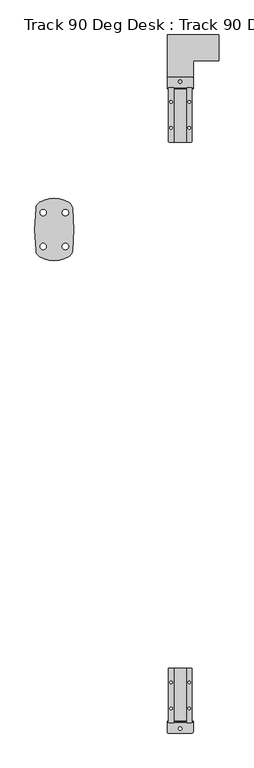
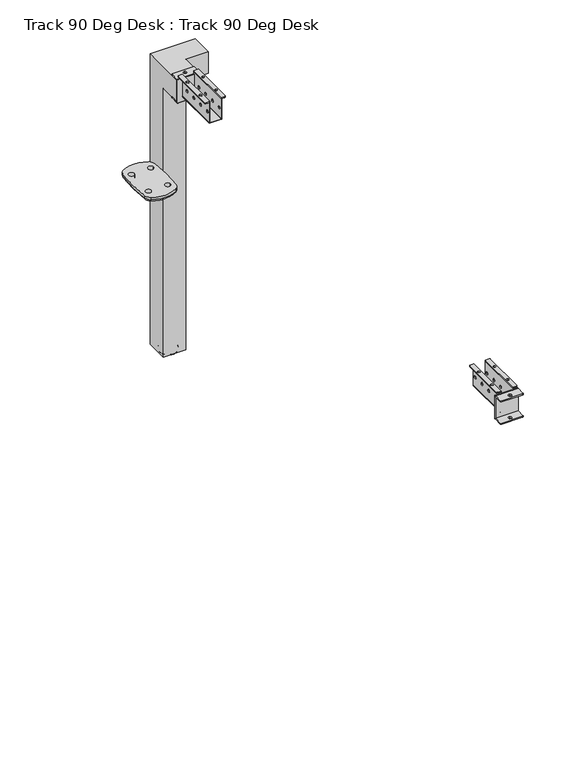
"""IFC4 building model written with IfcOpenShell, lengths in millimetres: furniture geometry, Track 90 Deg Desk : Track 90 Deg Desk."""

from ifc_helpers import new_model, si_unit, point, frame, frame_2d, origin, place, context, project, spatial, polyline, circle_curve, ellipse_curve, trimmed, segment, composite_curve, outline, extrude, faceted_brep, source, transform, mapped, element, save
from ifc_brep_helpers import plane_surface, cylinder_surface, revolved_surface, advanced_brep


def track_90_deg_desk_track_90_deg_desk_626baa0c(model_context):
    return source(origin(), model_context, "Body", "SolidModel", [
        extrude(outline(composite_curve([segment(polyline([(327.4375236, -1648.5331707), (327.4375236, -1546.4687924)]), True, "CONTINUOUS"), segment(trimmed(circle_curve(frame_2d((328.9063713, -1546.4687924)), 1.4688476), [point((327.4375236, -1546.4687924))], [point((328.9063713, -1544.9999448))], False, "CARTESIAN"), True, "CONTINUOUS"), segment(polyline([(328.9063713, -1544.9999448), (337.4374946, -1544.9999448), (337.4374946, -1649.9999492), (328.9043021, -1649.9999492)]), True, "CONTINUOUS"), segment(trimmed(circle_curve(frame_2d((328.9043021, -1648.5331707)), 1.4667785), [point((328.9043021, -1649.9999492))], [point((327.4375236, -1648.5331707))], False, "CARTESIAN"), True, "CONTINUOUS")], self_intersect=False), holes=[composite_curve([segment(trimmed(circle_curve(frame_2d((332.4375091, -1622.4999472)), 2.5000018), [point((332.4375091, -1624.999949))], [point((332.4375091, -1619.9999453))], True, "CARTESIAN"), True, "CONTINUOUS"), segment(trimmed(circle_curve(frame_2d((332.4375091, -1622.4999472)), 2.5000018), [point((332.4375091, -1619.9999453))], [point((332.4375091, -1624.999949))], True, "CARTESIAN"), True, "CONTINUOUS")], self_intersect=False), composite_curve([segment(trimmed(circle_curve(frame_2d((332.4375091, -1572.4999468)), 2.5000018), [point((332.4375091, -1574.9999486))], [point((332.4375091, -1569.9999449))], True, "CARTESIAN"), True, "CONTINUOUS"), segment(trimmed(circle_curve(frame_2d((332.4375091, -1572.4999468)), 2.5000018), [point((332.4375091, -1569.9999449))], [point((332.4375091, -1574.9999486))], True, "CARTESIAN"), True, "CONTINUOUS")], self_intersect=False)]), frame((0.0, 0.0, 692.5000071), z_axis=(0.0, 0.0, 1.0), x_axis=(1.0, 0.0, 0.0)), (0.0, 0.0, 1.0), 2.4999928),
        extrude(outline(composite_curve([segment(trimmed(circle_curve(frame_2d((371.0956797, -1648.5331707)), 1.4667785), [point((372.5624582, -1648.5331707))], [point((371.0956797, -1649.9999492))], False, "CARTESIAN"), True, "CONTINUOUS"), segment(polyline([(371.0956797, -1649.9999492), (362.5624872, -1649.9999492), (362.5624872, -1544.9999448), (371.0936106, -1544.9999448)]), True, "CONTINUOUS"), segment(trimmed(circle_curve(frame_2d((371.0936106, -1546.4687924)), 1.4688476), [point((371.0936106, -1544.9999448))], [point((372.5624582, -1546.4687924))], False, "CARTESIAN"), True, "CONTINUOUS"), segment(polyline([(372.5624582, -1546.4687924), (372.5624582, -1648.5331707)]), True, "CONTINUOUS")], self_intersect=False), holes=[composite_curve([segment(trimmed(circle_curve(frame_2d((367.5624727, -1622.4999472)), 2.5000018), [point((367.5624727, -1624.999949))], [point((367.5624727, -1619.9999453))], True, "CARTESIAN"), True, "CONTINUOUS"), segment(trimmed(circle_curve(frame_2d((367.5624727, -1622.4999472)), 2.5000018), [point((367.5624727, -1619.9999453))], [point((367.5624727, -1624.999949))], True, "CARTESIAN"), True, "CONTINUOUS")], self_intersect=False), composite_curve([segment(trimmed(circle_curve(frame_2d((367.5624727, -1572.4999468)), 2.5000018), [point((367.5624727, -1574.9999486))], [point((367.5624727, -1569.9999449))], True, "CARTESIAN"), True, "CONTINUOUS"), segment(trimmed(circle_curve(frame_2d((367.5624727, -1572.4999468)), 2.5000018), [point((367.5624727, -1569.9999449))], [point((367.5624727, -1574.9999486))], True, "CARTESIAN"), True, "CONTINUOUS")], self_intersect=False)]), frame((0.0, 0.0, 692.5000071), z_axis=(0.0, 0.0, 1.0), x_axis=(1.0, 0.0, 0.0)), (0.0, 0.0, 1.0), 2.4999928),
        extrude(outline(composite_curve([segment(polyline([(644.9999994, 337.4374946), (645.9999994, 337.4374946), (645.9999994, 336.174127), (644.2418639, 336.174127)]), True, "CONTINUOUS"), segment(trimmed(circle_curve(frame_2d((644.2418639, 336.674127)), 0.5), [point((644.2418639, 336.174127))], [point((643.7418639, 336.674127))], False, "CARTESIAN"), True, "CONTINUOUS"), segment(polyline([(643.7418639, 336.674127), (643.7418639, 363.32506)]), True, "CONTINUOUS"), segment(trimmed(circle_curve(frame_2d((644.2426588, 363.32506)), 0.5007949), [point((643.7418639, 363.32506))], [point((644.2426588, 363.8258548))], False, "CARTESIAN"), True, "CONTINUOUS"), segment(polyline([(644.2426588, 363.8258548), (645.9999994, 363.8258548), (645.9999994, 362.5624872), (644.9999994, 362.5624872), (644.9999994, 337.4374946)]), True, "CONTINUOUS")], self_intersect=False)), frame((0.0, -1647.4999473, 0.0), z_axis=(0.0, 1.0, 0.0), x_axis=(0.0, 0.0, 1.0)), (0.0, 0.0, 1.0), 102.5000026),
        extrude(outline(polyline([(-1544.9999448, 645.9999994), (-1647.4999473, 645.9999994), (-1647.4999473, 687.999991), (-1649.9999492, 687.999991), (-1649.9999492, 692.5000071), (-1544.9999448, 692.5000071), (-1544.9999448, 645.9999994)]), holes=[composite_curve([segment(trimmed(circle_curve(frame_2d((-1629.9999527, 668.1207902)), 2.9999986), [point((-1632.9999512, 668.1207902))], [point((-1626.9999541, 668.1207902))], True, "CARTESIAN"), True, "CONTINUOUS"), segment(trimmed(circle_curve(frame_2d((-1629.9999527, 668.1207902)), 2.9999986), [point((-1626.9999541, 668.1207902))], [point((-1632.9999512, 668.1207902))], True, "CARTESIAN"), True, "CONTINUOUS")], self_intersect=False), composite_curve([segment(trimmed(circle_curve(frame_2d((-1604.0058651, 668.1207902)), 2.9999986), [point((-1607.0058637, 668.1207902))], [point((-1601.0058666, 668.1207902))], True, "CARTESIAN"), True, "CONTINUOUS"), segment(trimmed(circle_curve(frame_2d((-1604.0058651, 668.1207902)), 2.9999986), [point((-1601.0058666, 668.1207902))], [point((-1607.0058637, 668.1207902))], True, "CARTESIAN"), True, "CONTINUOUS")], self_intersect=False), composite_curve([segment(trimmed(circle_curve(frame_2d((-1578.0117776, 668.1207902)), 2.9999986), [point((-1575.0117791, 668.1207902))], [point((-1581.0117762, 668.1207902))], True, "CARTESIAN"), True, "CONTINUOUS"), segment(trimmed(circle_curve(frame_2d((-1578.0117776, 668.1207902)), 2.9999986), [point((-1581.0117762, 668.1207902))], [point((-1575.0117791, 668.1207902))], True, "CARTESIAN"), True, "CONTINUOUS")], self_intersect=False), composite_curve([segment(trimmed(circle_curve(frame_2d((-1552.0176901, 668.1207902)), 2.9999986), [point((-1549.0176915, 668.1207902))], [point((-1555.0176887, 668.1207902))], True, "CARTESIAN"), True, "CONTINUOUS"), segment(trimmed(circle_curve(frame_2d((-1552.0176901, 668.1207902)), 2.9999986), [point((-1555.0176887, 668.1207902))], [point((-1549.0176915, 668.1207902))], True, "CARTESIAN"), True, "CONTINUOUS")], self_intersect=False)]), frame((336.174127, 0.0, 0.0), z_axis=(1.0, 0.0, 0.0), x_axis=(0.0, 1.0, 0.0)), (0.0, 0.0, 1.0), 1.2633677),
        extrude(outline(composite_curve([segment(polyline([(324.9999544, -1667.9824397), (324.9999544, -1649.9999492), (374.9999548, -1649.9999492), (374.9999548, -1667.9713639)]), True, "CONTINUOUS"), segment(trimmed(circle_curve(frame_2d((372.9713684, -1667.9713639)), 2.0285864), [point((374.9999548, -1667.9713639))], [point((372.9713684, -1669.9999502))], False, "CARTESIAN"), True, "CONTINUOUS"), segment(polyline([(372.9713684, -1669.9999502), (327.0174649, -1669.9999502)]), True, "CONTINUOUS"), segment(trimmed(circle_curve(frame_2d((327.0174649, -1667.9824397)), 2.0175105), [point((327.0174649, -1669.9999502))], [point((324.9999544, -1667.9824397))], False, "CARTESIAN"), True, "CONTINUOUS")], self_intersect=False), holes=[composite_curve([segment(trimmed(circle_curve(frame_2d((349.9999546, -1661.4999513)), 3.2500196), [point((349.9999546, -1664.7499709))], [point((349.9999546, -1658.2499316))], True, "CARTESIAN"), True, "CONTINUOUS"), segment(trimmed(circle_curve(frame_2d((349.9999546, -1661.4999513)), 3.2500196), [point((349.9999546, -1658.2499316))], [point((349.9999546, -1664.7499709))], True, "CARTESIAN"), True, "CONTINUOUS")], self_intersect=False)]), frame((0.0, 0.0, 633.0000051), z_axis=(0.0, 0.0, 1.0), x_axis=(1.0, 0.0, 0.0)), (0.0, 0.0, 1.0), 2.4999928),
        extrude(outline(composite_curve([segment(polyline([(324.9999544, -1667.9824397), (324.9999544, -1649.9999492), (374.9999548, -1649.9999492), (374.9999548, -1667.9713639)]), True, "CONTINUOUS"), segment(trimmed(circle_curve(frame_2d((372.9713684, -1667.9713639)), 2.0285864), [point((374.9999548, -1667.9713639))], [point((372.9713684, -1669.9999502))], False, "CARTESIAN"), True, "CONTINUOUS"), segment(polyline([(372.9713684, -1669.9999502), (327.0174649, -1669.9999502)]), True, "CONTINUOUS"), segment(trimmed(circle_curve(frame_2d((327.0174649, -1667.9824397)), 2.0175105), [point((327.0174649, -1669.9999502))], [point((324.9999544, -1667.9824397))], False, "CARTESIAN"), True, "CONTINUOUS")], self_intersect=False), holes=[composite_curve([segment(trimmed(circle_curve(frame_2d((349.9999546, -1661.4999513)), 3.2500196), [point((349.9999546, -1664.7499709))], [point((349.9999546, -1658.2499316))], True, "CARTESIAN"), True, "CONTINUOUS"), segment(trimmed(circle_curve(frame_2d((349.9999546, -1661.4999513)), 3.2500196), [point((349.9999546, -1658.2499316))], [point((349.9999546, -1664.7499709))], True, "CARTESIAN"), True, "CONTINUOUS")], self_intersect=False)]), frame((0.0, 0.0, 685.4999983), z_axis=(0.0, 0.0, 1.0), x_axis=(1.0, 0.0, 0.0)), (0.0, 0.0, 1.0), 2.4999928),
        extrude(outline(composite_curve([segment(polyline([(-1649.9999492, 687.999991), (-1647.9999473, 687.999991)]), True, "CONTINUOUS"), segment(trimmed(circle_curve(frame_2d((-1647.9999473, 687.499991)), 0.5), [point((-1647.9999473, 687.999991))], [point((-1647.4999473, 687.499991))], False, "CARTESIAN"), True, "CONTINUOUS"), segment(polyline([(-1647.4999473, 687.499991), (-1647.4999473, 633.5414345)]), True, "CONTINUOUS"), segment(trimmed(circle_curve(frame_2d((-1648.0413767, 633.5414345)), 0.5414293), [point((-1647.4999473, 633.5414345))], [point((-1648.0413767, 633.0000051))], False, "CARTESIAN"), True, "CONTINUOUS"), segment(polyline([(-1648.0413767, 633.0000051), (-1649.9999492, 633.0000051), (-1649.9999492, 687.999991)]), True, "CONTINUOUS")], self_intersect=False)), frame((324.9999544, 0.0, 0.0), z_axis=(1.0, 0.0, 0.0), x_axis=(0.0, 1.0, 0.0)), (0.0, 0.0, 1.0), 50.0000004),
        extrude(outline(polyline([(-1544.9999448, 645.9999994), (-1647.4999473, 645.9999994), (-1647.4999473, 687.999991), (-1649.9999492, 687.999991), (-1649.9999492, 692.5000071), (-1544.9999448, 692.5000071), (-1544.9999448, 645.9999994)]), holes=[composite_curve([segment(trimmed(circle_curve(frame_2d((-1629.9999527, 668.1207902)), 2.9999986), [point((-1632.9999512, 668.1207902))], [point((-1626.9999541, 668.1207902))], True, "CARTESIAN"), True, "CONTINUOUS"), segment(trimmed(circle_curve(frame_2d((-1629.9999527, 668.1207902)), 2.9999986), [point((-1626.9999541, 668.1207902))], [point((-1632.9999512, 668.1207902))], True, "CARTESIAN"), True, "CONTINUOUS")], self_intersect=False), composite_curve([segment(trimmed(circle_curve(frame_2d((-1604.0058651, 668.1207902)), 2.9999986), [point((-1607.0058637, 668.1207902))], [point((-1601.0058666, 668.1207902))], True, "CARTESIAN"), True, "CONTINUOUS"), segment(trimmed(circle_curve(frame_2d((-1604.0058651, 668.1207902)), 2.9999986), [point((-1601.0058666, 668.1207902))], [point((-1607.0058637, 668.1207902))], True, "CARTESIAN"), True, "CONTINUOUS")], self_intersect=False), composite_curve([segment(trimmed(circle_curve(frame_2d((-1578.0117776, 668.1207902)), 2.9999986), [point((-1575.0117791, 668.1207902))], [point((-1581.0117762, 668.1207902))], True, "CARTESIAN"), True, "CONTINUOUS"), segment(trimmed(circle_curve(frame_2d((-1578.0117776, 668.1207902)), 2.9999986), [point((-1581.0117762, 668.1207902))], [point((-1575.0117791, 668.1207902))], True, "CARTESIAN"), True, "CONTINUOUS")], self_intersect=False), composite_curve([segment(trimmed(circle_curve(frame_2d((-1552.0176901, 668.1207902)), 2.9999986), [point((-1549.0176915, 668.1207902))], [point((-1555.0176887, 668.1207902))], True, "CARTESIAN"), True, "CONTINUOUS"), segment(trimmed(circle_curve(frame_2d((-1552.0176901, 668.1207902)), 2.9999986), [point((-1555.0176887, 668.1207902))], [point((-1549.0176915, 668.1207902))], True, "CARTESIAN"), True, "CONTINUOUS")], self_intersect=False)]), frame((362.5624872, 0.0, 0.0), z_axis=(1.0, 0.0, 0.0), x_axis=(0.0, 1.0, 0.0)), (0.0, 0.0, 1.0), 1.2633677),
        extrude(outline(composite_curve([segment(trimmed(circle_curve(frame_2d((328.9043021, -427.9667757)), 1.4667785), [point((327.4375236, -427.9667757))], [point((328.9043021, -426.4999972))], False, "CARTESIAN"), True, "CONTINUOUS"), segment(polyline([(328.9043021, -426.4999972), (337.4374946, -426.4999972), (337.4374946, -531.5000017), (328.9063713, -531.5000017)]), True, "CONTINUOUS"), segment(trimmed(circle_curve(frame_2d((328.9063713, -530.031154)), 1.4688476), [point((328.9063713, -531.5000017))], [point((327.4375236, -530.031154))], False, "CARTESIAN"), True, "CONTINUOUS"), segment(polyline([(327.4375236, -530.031154), (327.4375236, -427.9667757)]), True, "CONTINUOUS")], self_intersect=False), holes=[composite_curve([segment(trimmed(circle_curve(frame_2d((332.4375091, -453.9999993)), 2.5000018), [point((332.4375091, -451.4999974))], [point((332.4375091, -456.5000011))], True, "CARTESIAN"), True, "CONTINUOUS"), segment(trimmed(circle_curve(frame_2d((332.4375091, -453.9999993)), 2.5000018), [point((332.4375091, -456.5000011))], [point((332.4375091, -451.4999974))], True, "CARTESIAN"), True, "CONTINUOUS")], self_intersect=False), composite_curve([segment(trimmed(circle_curve(frame_2d((332.4375091, -503.9999996)), 2.5000018), [point((332.4375091, -501.4999978))], [point((332.4375091, -506.5000015))], True, "CARTESIAN"), True, "CONTINUOUS"), segment(trimmed(circle_curve(frame_2d((332.4375091, -503.9999996)), 2.5000018), [point((332.4375091, -506.5000015))], [point((332.4375091, -501.4999978))], True, "CARTESIAN"), True, "CONTINUOUS")], self_intersect=False)]), frame((0.0, 0.0, 692.5000271), z_axis=(0.0, 0.0, 1.0), x_axis=(1.0, 0.0, 0.0)), (0.0, 0.0, 1.0), 2.4999928),
        extrude(outline(composite_curve([segment(polyline([(372.5624582, -427.9667757), (372.5624582, -530.031154)]), True, "CONTINUOUS"), segment(trimmed(circle_curve(frame_2d((371.0936106, -530.031154)), 1.4688476), [point((372.5624582, -530.031154))], [point((371.0936106, -531.5000017))], False, "CARTESIAN"), True, "CONTINUOUS"), segment(polyline([(371.0936106, -531.5000017), (362.5624872, -531.5000017), (362.5624872, -426.4999972), (371.0956797, -426.4999972)]), True, "CONTINUOUS"), segment(trimmed(circle_curve(frame_2d((371.0956797, -427.9667757)), 1.4667785), [point((371.0956797, -426.4999972))], [point((372.5624582, -427.9667757))], False, "CARTESIAN"), True, "CONTINUOUS")], self_intersect=False), holes=[composite_curve([segment(trimmed(circle_curve(frame_2d((367.5624727, -453.9999993)), 2.5000018), [point((367.5624727, -451.4999974))], [point((367.5624727, -456.5000011))], True, "CARTESIAN"), True, "CONTINUOUS"), segment(trimmed(circle_curve(frame_2d((367.5624727, -453.9999993)), 2.5000018), [point((367.5624727, -456.5000011))], [point((367.5624727, -451.4999974))], True, "CARTESIAN"), True, "CONTINUOUS")], self_intersect=False), composite_curve([segment(trimmed(circle_curve(frame_2d((367.5624727, -503.9999996)), 2.5000018), [point((367.5624727, -501.4999978))], [point((367.5624727, -506.5000015))], True, "CARTESIAN"), True, "CONTINUOUS"), segment(trimmed(circle_curve(frame_2d((367.5624727, -503.9999996)), 2.5000018), [point((367.5624727, -506.5000015))], [point((367.5624727, -501.4999978))], True, "CARTESIAN"), True, "CONTINUOUS")], self_intersect=False)]), frame((0.0, 0.0, 692.5000271), z_axis=(0.0, 0.0, 1.0), x_axis=(1.0, 0.0, 0.0)), (0.0, 0.0, 1.0), 2.4999928),
        extrude(outline(composite_curve([segment(polyline([(645.0000195, 337.4374946), (646.0000195, 337.4374946), (646.0000195, 336.174127), (644.241884, 336.174127)]), True, "CONTINUOUS"), segment(trimmed(circle_curve(frame_2d((644.241884, 336.674127)), 0.5), [point((644.241884, 336.174127))], [point((643.741884, 336.674127))], False, "CARTESIAN"), True, "CONTINUOUS"), segment(polyline([(643.741884, 336.674127), (643.741884, 363.32506)]), True, "CONTINUOUS"), segment(trimmed(circle_curve(frame_2d((644.2426788, 363.32506)), 0.5007949), [point((643.741884, 363.32506))], [point((644.2426788, 363.8258548))], False, "CARTESIAN"), True, "CONTINUOUS"), segment(polyline([(644.2426788, 363.8258548), (646.0000195, 363.8258548), (646.0000195, 362.5624872), (645.0000195, 362.5624872), (645.0000195, 337.4374946)]), True, "CONTINUOUS")], self_intersect=False)), frame((0.0, -531.5000017, 0.0), z_axis=(0.0, 1.0, 0.0), x_axis=(0.0, 0.0, 1.0)), (0.0, 0.0, 1.0), 102.5000026),
        extrude(outline(polyline([(-531.5000017, 646.0000195), (-531.5000017, 692.5000271), (-426.4999972, 692.5000271), (-426.4999972, 688.0000111), (-428.9999991, 688.0000111), (-428.9999991, 646.0000195), (-531.5000017, 646.0000195)]), holes=[composite_curve([segment(trimmed(circle_curve(frame_2d((-446.4999938, 668.1208102)), 2.9999986), [point((-443.4999952, 668.1208102))], [point((-449.4999923, 668.1208102))], True, "CARTESIAN"), True, "CONTINUOUS"), segment(trimmed(circle_curve(frame_2d((-446.4999938, 668.1208102)), 2.9999986), [point((-449.4999923, 668.1208102))], [point((-443.4999952, 668.1208102))], True, "CARTESIAN"), True, "CONTINUOUS")], self_intersect=False), composite_curve([segment(trimmed(circle_curve(frame_2d((-472.4940813, 668.1208102)), 2.9999986), [point((-469.4940827, 668.1208102))], [point((-475.4940798, 668.1208102))], True, "CARTESIAN"), True, "CONTINUOUS"), segment(trimmed(circle_curve(frame_2d((-472.4940813, 668.1208102)), 2.9999986), [point((-475.4940798, 668.1208102))], [point((-469.4940827, 668.1208102))], True, "CARTESIAN"), True, "CONTINUOUS")], self_intersect=False), composite_curve([segment(trimmed(circle_curve(frame_2d((-498.4881688, 668.1208102)), 2.9999986), [point((-501.4881674, 668.1208102))], [point((-495.4881702, 668.1208102))], True, "CARTESIAN"), True, "CONTINUOUS"), segment(trimmed(circle_curve(frame_2d((-498.4881688, 668.1208102)), 2.9999986), [point((-495.4881702, 668.1208102))], [point((-501.4881674, 668.1208102))], True, "CARTESIAN"), True, "CONTINUOUS")], self_intersect=False), composite_curve([segment(trimmed(circle_curve(frame_2d((-524.4822563, 668.1208102)), 2.9999986), [point((-527.4822549, 668.1208102))], [point((-521.4822577, 668.1208102))], True, "CARTESIAN"), True, "CONTINUOUS"), segment(trimmed(circle_curve(frame_2d((-524.4822563, 668.1208102)), 2.9999986), [point((-521.4822577, 668.1208102))], [point((-527.4822549, 668.1208102))], True, "CARTESIAN"), True, "CONTINUOUS")], self_intersect=False)]), frame((336.174127, 0.0, 0.0), z_axis=(1.0, 0.0, 0.0), x_axis=(0.0, 1.0, 0.0)), (0.0, 0.0, 1.0), 1.2633677),
        extrude(outline(composite_curve([segment(trimmed(circle_curve(frame_2d((327.0174649, -408.5175067)), 2.0175105), [point((324.9999544, -408.5175067))], [point((327.0174649, -406.4999962))], False, "CARTESIAN"), True, "CONTINUOUS"), segment(polyline([(327.0174649, -406.4999962), (372.9713684, -406.4999962)]), True, "CONTINUOUS"), segment(trimmed(circle_curve(frame_2d((372.9713684, -408.5285826)), 2.0285864), [point((372.9713684, -406.4999962))], [point((374.9999548, -408.5285826))], False, "CARTESIAN"), True, "CONTINUOUS"), segment(polyline([(374.9999548, -408.5285826), (374.9999548, -426.4999972), (324.9999544, -426.4999972), (324.9999544, -408.5175067)]), True, "CONTINUOUS")], self_intersect=False), holes=[composite_curve([segment(trimmed(circle_curve(frame_2d((349.9999546, -414.9999951)), 3.2500196), [point((349.9999546, -411.7499755))], [point((349.9999546, -418.2500148))], True, "CARTESIAN"), True, "CONTINUOUS"), segment(trimmed(circle_curve(frame_2d((349.9999546, -414.9999951)), 3.2500196), [point((349.9999546, -418.2500148))], [point((349.9999546, -411.7499755))], True, "CARTESIAN"), True, "CONTINUOUS")], self_intersect=False)]), frame((0.0, 0.0, 633.0000252), z_axis=(0.0, 0.0, 1.0), x_axis=(1.0, 0.0, 0.0)), (0.0, 0.0, 1.0), 2.4999928),
        extrude(outline(composite_curve([segment(trimmed(circle_curve(frame_2d((327.0174649, -408.5175067)), 2.0175105), [point((324.9999544, -408.5175067))], [point((327.0174649, -406.4999962))], False, "CARTESIAN"), True, "CONTINUOUS"), segment(polyline([(327.0174649, -406.4999962), (372.9713684, -406.4999962)]), True, "CONTINUOUS"), segment(trimmed(circle_curve(frame_2d((372.9713684, -408.5285826)), 2.0285864), [point((372.9713684, -406.4999962))], [point((374.9999548, -408.5285826))], False, "CARTESIAN"), True, "CONTINUOUS"), segment(polyline([(374.9999548, -408.5285826), (374.9999548, -426.4999972), (324.9999544, -426.4999972), (324.9999544, -408.5175067)]), True, "CONTINUOUS")], self_intersect=False), holes=[composite_curve([segment(trimmed(circle_curve(frame_2d((349.9999546, -414.9999951)), 3.2500196), [point((349.9999546, -411.7499755))], [point((349.9999546, -418.2500148))], True, "CARTESIAN"), True, "CONTINUOUS"), segment(trimmed(circle_curve(frame_2d((349.9999546, -414.9999951)), 3.2500196), [point((349.9999546, -418.2500148))], [point((349.9999546, -411.7499755))], True, "CARTESIAN"), True, "CONTINUOUS")], self_intersect=False)]), frame((0.0, 0.0, 685.5000183), z_axis=(0.0, 0.0, 1.0), x_axis=(1.0, 0.0, 0.0)), (0.0, 0.0, 1.0), 2.4999928),
        extrude(outline(composite_curve([segment(polyline([(-426.4999972, 688.0000111), (-426.4999972, 633.0000252), (-428.4585698, 633.0000252)]), True, "CONTINUOUS"), segment(trimmed(circle_curve(frame_2d((-428.4585698, 633.5414545)), 0.5414293), [point((-428.4585698, 633.0000252))], [point((-428.9999991, 633.5414545))], False, "CARTESIAN"), True, "CONTINUOUS"), segment(polyline([(-428.9999991, 633.5414545), (-428.9999991, 687.5000111)]), True, "CONTINUOUS"), segment(trimmed(circle_curve(frame_2d((-428.4999991, 687.5000111)), 0.5), [point((-428.9999991, 687.5000111))], [point((-428.4999991, 688.0000111))], False, "CARTESIAN"), True, "CONTINUOUS"), segment(polyline([(-428.4999991, 688.0000111), (-426.4999972, 688.0000111)]), True, "CONTINUOUS")], self_intersect=False)), frame((324.9999544, 0.0, 0.0), z_axis=(1.0, 0.0, 0.0), x_axis=(0.0, 1.0, 0.0)), (0.0, 0.0, 1.0), 50.0000004),
        extrude(outline(polyline([(-531.5000017, 646.0000195), (-531.5000017, 692.5000271), (-426.4999972, 692.5000271), (-426.4999972, 688.0000111), (-428.9999991, 688.0000111), (-428.9999991, 646.0000195), (-531.5000017, 646.0000195)]), holes=[composite_curve([segment(trimmed(circle_curve(frame_2d((-446.4999938, 668.1208102)), 2.9999986), [point((-443.4999952, 668.1208102))], [point((-449.4999923, 668.1208102))], True, "CARTESIAN"), True, "CONTINUOUS"), segment(trimmed(circle_curve(frame_2d((-446.4999938, 668.1208102)), 2.9999986), [point((-449.4999923, 668.1208102))], [point((-443.4999952, 668.1208102))], True, "CARTESIAN"), True, "CONTINUOUS")], self_intersect=False), composite_curve([segment(trimmed(circle_curve(frame_2d((-472.4940813, 668.1208102)), 2.9999986), [point((-469.4940827, 668.1208102))], [point((-475.4940798, 668.1208102))], True, "CARTESIAN"), True, "CONTINUOUS"), segment(trimmed(circle_curve(frame_2d((-472.4940813, 668.1208102)), 2.9999986), [point((-475.4940798, 668.1208102))], [point((-469.4940827, 668.1208102))], True, "CARTESIAN"), True, "CONTINUOUS")], self_intersect=False), composite_curve([segment(trimmed(circle_curve(frame_2d((-498.4881688, 668.1208102)), 2.9999986), [point((-501.4881674, 668.1208102))], [point((-495.4881702, 668.1208102))], True, "CARTESIAN"), True, "CONTINUOUS"), segment(trimmed(circle_curve(frame_2d((-498.4881688, 668.1208102)), 2.9999986), [point((-495.4881702, 668.1208102))], [point((-501.4881674, 668.1208102))], True, "CARTESIAN"), True, "CONTINUOUS")], self_intersect=False), composite_curve([segment(trimmed(circle_curve(frame_2d((-524.4822563, 668.1208102)), 2.9999986), [point((-527.4822549, 668.1208102))], [point((-521.4822577, 668.1208102))], True, "CARTESIAN"), True, "CONTINUOUS"), segment(trimmed(circle_curve(frame_2d((-524.4822563, 668.1208102)), 2.9999986), [point((-521.4822577, 668.1208102))], [point((-527.4822549, 668.1208102))], True, "CARTESIAN"), True, "CONTINUOUS")], self_intersect=False)]), frame((362.5624872, 0.0, 0.0), z_axis=(1.0, 0.0, 0.0), x_axis=(0.0, 1.0, 0.0)), (0.0, 0.0, 1.0), 1.2633677),
        faceted_brep([(424.9999907, -324.9999998, 635.4999996), (424.9999907, -324.9999998, 685.5), (424.9999907, -375.0000002, 685.5), (424.9999907, -375.0000002, 635.4999996), (424.9999907, -326.9999998, 637.4999502), (424.9999907, -372.9999996, 637.4999502), (424.9999907, -372.9999996, 683.4999767), (424.9999907, -326.9999998, 683.4999767), (374.9999911, -324.9999998, 5.4999998), (374.9999911, -375.0000002, 5.4999998), (324.9999907, -375.0000002, 5.4999998), (324.9999907, -324.9999998, 5.4999998), (373.0000405, -326.9999998, 5.4999998), (327.000014, -326.9999998, 5.4999998), (327.000014, -372.9999996, 5.4999998), (373.0000405, -372.9999996, 5.4999998), (374.9999911, -324.9999998, 635.4999996), (324.9999907, -324.9999998, 685.5), (324.9999998, -424.9999907, 685.5), (375.0000002, -424.9999907, 685.5), (375.0000002, -375.0000002, 685.5), (375.0000002, -375.0000002, 635.4999996), (324.9999907, -375.0000002, 635.4999996), (327.0000004, -375.0000002, 637.4999502), (373.0000002, -375.0000002, 637.4999502), (373.0000002, -375.0000002, 683.4999767), (327.0000004, -375.0000002, 683.4999767), (373.0000405, -326.9999998, 637.4999502), (373.0000405, -372.9999996, 637.4999502), (327.000014, -372.9999996, 683.4999767), (327.000014, -326.9999998, 683.4999767), (324.9999907, -424.9999907, 635.4999996), (375.0000002, -424.9999907, 635.4999996), (373.0000002, -424.9999907, 637.4999502), (327.0000004, -424.9999907, 637.4999502), (327.0000004, -424.9999907, 683.4999767), (373.0000002, -424.9999907, 683.4999767)], [[[0, 1, 2, 3], [4, 5, 6, 7]], [[8, 9, 10, 11], [12, 13, 14, 15]], [[1, 0, 16, 8, 11, 17]], [[2, 1, 17, 18, 19, 20]], [[3, 2, 20, 21]], [[10, 9, 21, 22]], [[23, 24, 25, 26]], [[0, 3, 21, 16]], [[5, 4, 27, 28]], [[6, 5, 28, 15, 14, 29]], [[7, 6, 29, 30]], [[4, 7, 30, 13, 12, 27]], [[11, 10, 22, 31, 18, 17]], [[9, 8, 16, 21]], [[12, 15, 28, 27]], [[14, 13, 30, 29]], [[32, 19, 18, 31], [33, 34, 35, 36]], [[19, 32, 21, 20]], [[32, 31, 22, 21]], [[34, 33, 24, 23]], [[35, 34, 23, 26]], [[36, 35, 26, 25]], [[33, 36, 25, 24]]]),
        advanced_brep(
        [(346.0, -349.9999989, 10.0000005), (354.0, -349.9999989, 10.0000005), (354.0, -349.9999989, 70.0000014), (346.0, -349.9999989, 70.0000014), (339.0359152, -349.9999989, 10.0000005), (360.9640848, -349.9999989, 10.0000005), (339.0359152, -349.9999989, 6.0), (360.9640848, -349.9999989, 6.0), (331.9539941, -349.9999989, 6.0), (368.0460059, -349.9999989, 6.0), (330.0000012, -349.9999989, 4.0460071), (369.9999988, -349.9999989, 4.0460071), (330.0000012, -349.9999989, 2.0), (369.9999988, -349.9999989, 2.0), (332.0000012, -349.9999989, 0.0), (367.9999988, -349.9999989, 0.0), (350.0, -349.9999989, 0.0), (350.0, -349.9999989, 70.0000014)],
        [
            (0, 1, circle_curve(frame((350.0, -349.9999989, 10.0000005), z_axis=(0.0, 0.0, 1.0), x_axis=(1.0, 0.0, 0.0)), 4.0)),
            (1, 2),
            (2, 3, circle_curve(frame((350.0, -349.9999989, 70.0000014), z_axis=(0.0, 0.0, -1.0), x_axis=(1.0, 0.0, 0.0)), 4.0)),
            (3, 0),
            (1, 0, circle_curve(frame((350.0, -349.9999989, 10.0000005), z_axis=(0.0, 0.0, 1.0), x_axis=(1.0, 0.0, 0.0)), 4.0)),
            (3, 2, circle_curve(frame((350.0, -349.9999989, 70.0000014), z_axis=(0.0, 0.0, -1.0), x_axis=(1.0, 0.0, 0.0)), 4.0)),
            (4, 5, circle_curve(frame((350.0, -349.9999989, 10.0000005), z_axis=(0.0, 0.0, 1.0), x_axis=(1.0, 0.0, 0.0)), 10.9640848)),
            (5, 1),
            (0, 4),
            (5, 4, circle_curve(frame((350.0, -349.9999989, 10.0000005), z_axis=(0.0, 0.0, 1.0), x_axis=(1.0, 0.0, 0.0)), 10.9640848)),
            (6, 7, circle_curve(frame((350.0, -349.9999989, 6.0), z_axis=(0.0, 0.0, 1.0), x_axis=(1.0, 0.0, 0.0)), 10.9640848)),
            (7, 5),
            (4, 6),
            (7, 6, circle_curve(frame((350.0, -349.9999989, 6.0), z_axis=(0.0, 0.0, 1.0), x_axis=(1.0, 0.0, 0.0)), 10.9640848)),
            (8, 9, circle_curve(frame((350.0, -349.9999989, 6.0), z_axis=(0.0, 0.0, 1.0), x_axis=(1.0, 0.0, 0.0)), 18.0460059)),
            (9, 7),
            (6, 8),
            (9, 8, circle_curve(frame((350.0, -349.9999989, 6.0), z_axis=(0.0, 0.0, 1.0), x_axis=(1.0, 0.0, 0.0)), 18.0460059)),
            (10, 11, circle_curve(frame((350.0, -349.9999989, 4.0460071), z_axis=(0.0, 0.0, 1.0), x_axis=(1.0, 0.0, 0.0)), 19.9999988)),
            (11, 9, circle_curve(frame((368.0460059, -349.9999989, 4.0460071), z_axis=(0.0, -1.0, 0.0), x_axis=(-1.0, 0.0, 0.0)), 1.9539929)),
            (8, 10, circle_curve(frame((331.9539941, -349.9999989, 4.0460071), z_axis=(0.0, -1.0, 0.0), x_axis=(1.0, 0.0, 0.0)), 1.9539929)),
            (11, 10, circle_curve(frame((350.0, -349.9999989, 4.0460071), z_axis=(0.0, 0.0, 1.0), x_axis=(1.0, 0.0, 0.0)), 19.9999988)),
            (12, 13, circle_curve(frame((350.0, -349.9999989, 2.0), z_axis=(0.0, 0.0, 1.0), x_axis=(1.0, 0.0, 0.0)), 19.9999988)),
            (13, 11),
            (10, 12),
            (13, 12, circle_curve(frame((350.0, -349.9999989, 2.0), z_axis=(0.0, 0.0, 1.0), x_axis=(1.0, 0.0, 0.0)), 19.9999988)),
            (14, 15, circle_curve(frame((350.0, -349.9999989, 0.0), z_axis=(0.0, 0.0, 1.0), x_axis=(1.0, 0.0, 0.0)), 17.9999988)),
            (15, 13, circle_curve(frame((367.9999988, -349.9999989, 2.0), z_axis=(0.0, -1.0, 0.0), x_axis=(-1.0, 0.0, 0.0)), 2.0)),
            (12, 14, circle_curve(frame((332.0000012, -349.9999989, 2.0), z_axis=(0.0, -1.0, 0.0), x_axis=(1.0, 0.0, 0.0)), 2.0)),
            (15, 14, circle_curve(frame((350.0, -349.9999989, 0.0), z_axis=(0.0, 0.0, 1.0), x_axis=(1.0, 0.0, 0.0)), 17.9999988)),
            (16, 15),
            (14, 16),
            (2, 17),
            (17, 3),
        ],
        [
            cylinder_surface(frame((350.0, -349.9999989, 70.0000014), z_axis=(0.0, 0.0, -1.0), x_axis=(1.0, 0.0, 0.0)), 4.0),
            plane_surface(frame((350.0, -349.9999989, 10.0000005), z_axis=(0.0, 0.0, 1.0), x_axis=(1.0, 0.0, 0.0))),
            cylinder_surface(frame((350.0, -349.9999989, 70.0000014), z_axis=(0.0, 0.0, -1.0), x_axis=(1.0, 0.0, 0.0)), 10.9640848),
            plane_surface(frame((350.0, -349.9999989, 6.0), z_axis=(0.0, 0.0, 1.0), x_axis=(1.0, 0.0, 0.0))),
            revolved_surface(trimmed(ellipse_curve(frame((368.0460059, -349.9999989, 4.0460071), z_axis=(0.0, 1.0, 0.0), x_axis=(-1.0, 0.0, 0.0)), 1.9539929, 1.9539929), [point((368.0460059, -349.9999989, 6.0))], [point((369.9999988, -349.9999989, 4.0460071))], True, "CARTESIAN"), (350.0, -349.9999989, 70.0000014), (0.0, 0.0, -1.0)),
            cylinder_surface(frame((350.0, -349.9999989, 70.0000014), z_axis=(0.0, 0.0, -1.0), x_axis=(1.0, 0.0, 0.0)), 19.9999988),
            revolved_surface(trimmed(ellipse_curve(frame((367.9999988, -349.9999989, 2.0), z_axis=(0.0, 1.0, 0.0), x_axis=(-1.0, 0.0, 0.0)), 2.0, 2.0), [point((369.9999988, -349.9999989, 2.0))], [point((367.9999988, -349.9999989, 0.0))], True, "CARTESIAN"), (350.0, -349.9999989, 70.0000014), (0.0, 0.0, -1.0)),
            plane_surface(frame((350.0, -349.9999989, 0.0), z_axis=(0.0, 0.0, -1.0), x_axis=(1.0, 0.0, 0.0))),
            plane_surface(frame((350.0, -349.9999989, 70.0000014), z_axis=(0.0, 0.0, 1.0), x_axis=(1.0, 0.0, 0.0))),
        ],
        [
            (0, [[1, 2, 3, 4]]),
            (0, [[5, -4, 6, -2]]),
            (1, [[7, 8, -1, 9]]),
            (1, [[10, -9, -5, -8]]),
            (2, [[11, 12, -7, 13]]),
            (2, [[14, -13, -10, -12]]),
            (3, [[15, 16, -11, 17]]),
            (3, [[18, -17, -14, -16]]),
            (4, [[19, 20, -15, 21]]),
            (4, [[22, -21, -18, -20]]),
            (5, [[23, 24, -19, 25]]),
            (5, [[26, -25, -22, -24]]),
            (6, [[27, 28, -23, 29]]),
            (6, [[30, -29, -26, -28]]),
            (7, [[31, -27, 32]]),
            (7, [[-32, -30, -31]]),
            (8, [[-3, 33, 34]]),
            (8, [[-6, -34, -33]]),
        ],
    ),
        extrude(outline(polyline([(373.0000405, -372.9999996), (327.000014, -372.9999996), (327.000014, -326.9999998), (373.0000405, -326.9999998), (373.0000405, -372.9999996)]), holes=[composite_curve([segment(trimmed(circle_curve(frame_2d((350.0, -350.0)), 5.5000004), [point((350.0, -344.4999996))], [point((350.0, -355.5000004))], True, "CARTESIAN"), True, "CONTINUOUS"), segment(trimmed(circle_curve(frame_2d((350.0, -350.0)), 5.5000004), [point((350.0, -355.5000004))], [point((350.0, -344.4999996))], True, "CARTESIAN"), True, "CONTINUOUS")], self_intersect=False)]), frame((0.0, 0.0, 15.4999998), z_axis=(0.0, 0.0, 1.0), x_axis=(1.0, 0.0, 0.0)), (0.0, 0.0, 1.0), 2.9999997),
        advanced_brep(
        [(142.0432818, -658.9123936, 694.9999998), (134.8582773, -647.7507158, 694.9999998), (79.0149906, -647.6821611, 694.9999998), (71.7986283, -658.8606077, 694.9999998), (71.7986283, -741.1393923, 694.9999998), (79.0149906, -752.3178389, 694.9999998), (134.8582773, -752.2492842, 694.9999998), (142.0432818, -741.0876064, 694.9999998), (134.3793529, -732.4999784, 694.9999998), (122.3793529, -732.4999784, 694.9999998), (79.5128608, -732.4999784, 694.9999998), (91.5128608, -732.4999784, 694.9999998), (134.3793529, -667.5000216, 694.9999998), (122.3793529, -667.5000216, 694.9999998), (79.5128608, -667.5000216, 694.9999998), (91.5128608, -667.5000216, 694.9999998), (81.5772332, -748.0242492, 684.4999866), (76.7663251, -740.5719515, 684.4999866), (76.7663251, -659.4280485, 684.4999866), (81.5772332, -651.9757508, 684.4999866), (132.2855005, -652.0380016, 684.4999866), (137.0755036, -659.4791201, 684.4999866), (137.0755036, -740.5208799, 684.4999866), (132.2855005, -747.9619984, 684.4999866), (134.3793529, -732.4999784, 684.4999866), (122.3793529, -732.4999784, 684.4999866), (79.5128608, -732.4999784, 684.4999866), (91.5128608, -732.4999784, 684.4999866), (134.3793529, -667.5000216, 684.4999866), (122.3793529, -667.5000216, 684.4999866), (79.5128608, -667.5000216, 684.4999866), (91.5128608, -667.5000216, 684.4999866), (142.0432818, -658.9123936, 689.4999866), (134.8582773, -647.7507158, 689.4999866), (79.0149906, -647.6821611, 689.4999866), (71.7986283, -658.8606077, 689.4999866), (71.7986283, -741.1393923, 689.4999866), (79.0149906, -752.3178389, 689.4999866), (134.8582773, -752.2492842, 689.4999866), (142.0432818, -741.0876064, 689.4999866)],
        [
            (0, 1, circle_curve(frame((127.139947, -660.6125732, 694.9999998), z_axis=(0.0, 0.0, 1.0), x_axis=(-1.0, 0.0, 0.0)), 15.0)),
            (1, 2, circle_curve(frame((106.8793548, -694.3749076, 694.9999998), z_axis=(0.0, 0.0, 1.0), x_axis=(-1.0, 0.0, 0.0)), 54.3749517)),
            (2, 3, circle_curve(frame((86.7017186, -660.5629302, 694.9999998), z_axis=(0.0, 0.0, 1.0), x_axis=(-1.0, 0.0, 0.0)), 15.0)),
            (3, 4, circle_curve(frame((431.9560417, -700.0, 694.9999998), z_axis=(0.0, 0.0, 1.0), x_axis=(1.0, 0.0, 0.0)), 362.4993958)),
            (4, 5, circle_curve(frame((86.7017186, -739.4370698, 694.9999998), z_axis=(0.0, 0.0, 1.0), x_axis=(-1.0, 0.0, 0.0)), 15.0)),
            (5, 6, circle_curve(frame((106.8793548, -705.6250924, 694.9999998), z_axis=(0.0, 0.0, 1.0), x_axis=(-1.0, 0.0, 0.0)), 54.3749517)),
            (6, 7, circle_curve(frame((127.139947, -739.3874268, 694.9999998), z_axis=(0.0, 0.0, 1.0), x_axis=(-1.0, 0.0, 0.0)), 15.0)),
            (7, 0, circle_curve(frame((-218.120043, -700.0, 694.9999998), z_axis=(0.0, 0.0, 1.0), x_axis=(-1.0, 0.0, 0.0)), 362.4993958)),
            (8, 9, circle_curve(frame((128.3793529, -732.4999784, 694.9999998), z_axis=(0.0, 0.0, -1.0), x_axis=(-1.0, 0.0, 0.0)), 6.0)),
            (9, 8, circle_curve(frame((128.3793529, -732.4999784, 694.9999998), z_axis=(0.0, 0.0, -1.0), x_axis=(-1.0, 0.0, 0.0)), 6.0)),
            (10, 11, circle_curve(frame((85.5128608, -732.4999784, 694.9999998), z_axis=(0.0, 0.0, -1.0), x_axis=(1.0, 0.0, 0.0)), 6.0)),
            (11, 10, circle_curve(frame((85.5128608, -732.4999784, 694.9999998), z_axis=(0.0, 0.0, -1.0), x_axis=(1.0, 0.0, 0.0)), 6.0)),
            (12, 13, circle_curve(frame((128.3793529, -667.5000216, 694.9999998), z_axis=(0.0, 0.0, -1.0), x_axis=(-1.0, 0.0, 0.0)), 6.0)),
            (13, 12, circle_curve(frame((128.3793529, -667.5000216, 694.9999998), z_axis=(0.0, 0.0, -1.0), x_axis=(-1.0, 0.0, 0.0)), 6.0)),
            (14, 15, circle_curve(frame((85.5128608, -667.5000216, 694.9999998), z_axis=(0.0, 0.0, -1.0), x_axis=(1.0, 0.0, 0.0)), 6.0)),
            (15, 14, circle_curve(frame((85.5128608, -667.5000216, 694.9999998), z_axis=(0.0, 0.0, -1.0), x_axis=(1.0, 0.0, 0.0)), 6.0)),
            (16, 17, circle_curve(frame((86.7017186, -739.4370698, 684.4999866), z_axis=(0.0, 0.0, -1.0), x_axis=(-0.9935393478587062, -0.11348816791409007, 0.0)), 10.0)),
            (17, 18, circle_curve(frame((431.9560417, -700.0, 684.4999866), z_axis=(0.0, 0.0, -1.0), x_axis=(-0.993539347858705, 0.11348816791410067, 0.0)), 357.4993958)),
            (18, 19, circle_curve(frame((86.7017186, -660.5629302, 684.4999866), z_axis=(0.0, 0.0, -1.0), x_axis=(-0.5124485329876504, 0.8587179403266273, 0.0)), 10.0)),
            (19, 20, circle_curve(frame((106.8793548, -694.3749076, 684.4999866), z_axis=(0.0, 0.0, -1.0), x_axis=(0.5145553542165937, 0.8574571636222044, 0.0)), 49.3749517)),
            (20, 21, circle_curve(frame((127.139947, -660.6125732, 684.4999866), z_axis=(0.0, 0.0, -1.0), x_axis=(0.993555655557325, 0.11334531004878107, 0.0)), 10.0)),
            (21, 22, circle_curve(frame((-218.120043, -700.0, 684.4999866), z_axis=(0.0, 0.0, -1.0), x_axis=(0.993555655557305, -0.11334531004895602, 0.0)), 357.4993958)),
            (22, 23, circle_curve(frame((127.139947, -739.3874268, 684.4999866), z_axis=(0.0, 0.0, -1.0), x_axis=(0.5145553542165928, -0.8574571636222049, 0.0)), 10.0)),
            (23, 16, circle_curve(frame((106.8793548, -705.6250924, 684.4999866), z_axis=(0.0, 0.0, -1.0), x_axis=(-0.5124485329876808, -0.8587179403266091, 0.0)), 49.3749517)),
            (24, 25, circle_curve(frame((128.3793529, -732.4999784, 684.4999866), z_axis=(0.0, 0.0, 1.0), x_axis=(-1.0, 0.0, 0.0)), 6.0)),
            (25, 24, circle_curve(frame((128.3793529, -732.4999784, 684.4999866), z_axis=(0.0, 0.0, 1.0), x_axis=(-1.0, 0.0, 0.0)), 6.0)),
            (26, 27, circle_curve(frame((85.5128608, -732.4999784, 684.4999866), z_axis=(0.0, 0.0, 1.0), x_axis=(1.0, 0.0, 0.0)), 6.0)),
            (27, 26, circle_curve(frame((85.5128608, -732.4999784, 684.4999866), z_axis=(0.0, 0.0, 1.0), x_axis=(1.0, 0.0, 0.0)), 6.0)),
            (28, 29, circle_curve(frame((128.3793529, -667.5000216, 684.4999866), z_axis=(0.0, 0.0, 1.0), x_axis=(-1.0, 0.0, 0.0)), 6.0)),
            (29, 28, circle_curve(frame((128.3793529, -667.5000216, 684.4999866), z_axis=(0.0, 0.0, 1.0), x_axis=(-1.0, 0.0, 0.0)), 6.0)),
            (30, 31, circle_curve(frame((85.5128608, -667.5000216, 684.4999866), z_axis=(0.0, 0.0, 1.0), x_axis=(1.0, 0.0, 0.0)), 6.0)),
            (31, 30, circle_curve(frame((85.5128608, -667.5000216, 684.4999866), z_axis=(0.0, 0.0, 1.0), x_axis=(1.0, 0.0, 0.0)), 6.0)),
            (0, 32),
            (32, 33, circle_curve(frame((127.139947, -660.6125732, 689.4999866), z_axis=(0.0, 0.0, 1.0), x_axis=(-1.0, 0.0, 0.0)), 15.0)),
            (33, 1),
            (33, 34, circle_curve(frame((106.8793548, -694.3749076, 689.4999866), z_axis=(0.0, 0.0, 1.0), x_axis=(-1.0, 0.0, 0.0)), 54.3749517)),
            (34, 2),
            (34, 35, circle_curve(frame((86.7017186, -660.5629302, 689.4999866), z_axis=(0.0, 0.0, 1.0), x_axis=(-1.0, 0.0, 0.0)), 15.0)),
            (35, 3),
            (35, 36, circle_curve(frame((431.9560417, -700.0, 689.4999866), z_axis=(0.0, 0.0, 1.0), x_axis=(1.0, 0.0, 0.0)), 362.4993958)),
            (36, 4),
            (36, 37, circle_curve(frame((86.7017186, -739.4370698, 689.4999866), z_axis=(0.0, 0.0, 1.0), x_axis=(-1.0, 0.0, 0.0)), 15.0)),
            (37, 5),
            (37, 38, circle_curve(frame((106.8793548, -705.6250924, 689.4999866), z_axis=(0.0, 0.0, 1.0), x_axis=(-1.0, 0.0, 0.0)), 54.3749517)),
            (38, 6),
            (38, 39, circle_curve(frame((127.139947, -739.3874268, 689.4999866), z_axis=(0.0, 0.0, 1.0), x_axis=(-1.0, 0.0, 0.0)), 15.0)),
            (39, 7),
            (39, 32, circle_curve(frame((-218.120043, -700.0, 689.4999866), z_axis=(0.0, 0.0, 1.0), x_axis=(-1.0, 0.0, 0.0)), 362.4993958)),
            (8, 24),
            (25, 9),
            (10, 26),
            (27, 11),
            (12, 28),
            (29, 13),
            (14, 30),
            (31, 15),
            (16, 37, circle_curve(frame((81.5772332, -748.0242492, 689.4999866), z_axis=(-0.8587179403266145, 0.512448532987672, 0.0), x_axis=(-0.512448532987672, -0.8587179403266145, 0.0)), 5.0)),
            (36, 17, circle_curve(frame((76.7663251, -740.5719515, 689.4999866), z_axis=(0.11348816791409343, -0.9935393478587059, 0.0), x_axis=(-0.9935393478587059, -0.11348816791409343, 0.0)), 5.0)),
            (23, 38, circle_curve(frame((132.2855005, -747.9619984, 689.4999866), z_axis=(-0.8574571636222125, -0.5145553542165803, 0.0), x_axis=(0.5145553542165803, -0.8574571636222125, 0.0)), 5.0)),
            (22, 39, circle_curve(frame((137.0755036, -740.5208799, 689.4999866), z_axis=(-0.11334531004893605, -0.9935556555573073, 0.0), x_axis=(0.9935556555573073, -0.11334531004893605, 0.0)), 5.0)),
            (21, 32, circle_curve(frame((137.0755036, -659.4791201, 689.4999866), z_axis=(0.11334531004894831, -0.993555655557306, 0.0), x_axis=(0.993555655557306, 0.11334531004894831, 0.0)), 5.0)),
            (20, 33, circle_curve(frame((132.2855005, -652.0380016, 689.4999866), z_axis=(0.857457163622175, -0.5145553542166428, 0.0), x_axis=(0.5145553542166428, 0.857457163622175, 0.0)), 5.0)),
            (19, 34, circle_curve(frame((81.5772332, -651.9757508, 689.4999866), z_axis=(0.8587179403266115, 0.5124485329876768, 0.0), x_axis=(-0.5124485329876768, 0.8587179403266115, 0.0)), 5.0)),
            (18, 35, circle_curve(frame((76.7663251, -659.4280485, 689.4999866), z_axis=(0.11348816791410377, 0.9935393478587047, 0.0), x_axis=(-0.9935393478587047, 0.11348816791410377, 0.0)), 5.0)),
        ],
        [
            plane_surface(frame((112.139947, -660.6125732, 694.9999998), z_axis=(0.0, 0.0, 1.0), x_axis=(0.0, -1.0, 0.0))),
            plane_surface(frame((112.139947, -660.6125732, 684.4999866), z_axis=(0.0, 0.0, -1.0), x_axis=(0.0, 1.0, 0.0))),
            cylinder_surface(frame((127.139947, -660.6125732, 684.4999866), z_axis=(0.0, 0.0, 1.0), x_axis=(-1.0, 0.0, 0.0)), 15.0),
            cylinder_surface(frame((106.8793548, -694.3749076, 684.4999866), z_axis=(0.0, 0.0, 1.0), x_axis=(-1.0, 0.0, 0.0)), 54.3749517),
            cylinder_surface(frame((86.7017186, -660.5629302, 684.4999866), z_axis=(0.0, 0.0, 1.0), x_axis=(-1.0, 0.0, 0.0)), 15.0),
            cylinder_surface(frame((431.9560417, -700.0, 684.4999866), z_axis=(0.0, 0.0, 1.0), x_axis=(1.0, 0.0, 0.0)), 362.4993958),
            cylinder_surface(frame((86.7017186, -739.4370698, 684.4999866), z_axis=(0.0, 0.0, 1.0), x_axis=(-1.0, 0.0, 0.0)), 15.0),
            cylinder_surface(frame((106.8793548, -705.6250924, 684.4999866), z_axis=(0.0, 0.0, 1.0), x_axis=(-1.0, 0.0, 0.0)), 54.3749517),
            cylinder_surface(frame((127.139947, -739.3874268, 684.4999866), z_axis=(0.0, 0.0, 1.0), x_axis=(-1.0, 0.0, 0.0)), 15.0),
            cylinder_surface(frame((-218.120043, -700.0, 684.4999866), z_axis=(0.0, 0.0, 1.0), x_axis=(-1.0, 0.0, 0.0)), 362.4993958),
            revolved_surface(polyline([(122.37935289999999, -732.4999784, 684.4999866), (122.37935289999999, -732.4999784, 694.9999998)]), (128.3793529, -732.4999784, -2e-05), (0.0, 0.0, -1.0)),
            revolved_surface(polyline([(91.5128608, -732.4999784, 684.4999866), (91.5128608, -732.4999784, 694.9999998)]), (85.5128608, -732.4999784, -2e-05), (0.0, 0.0, -1.0)),
            revolved_surface(polyline([(122.37935289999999, -667.5000216, 684.4999866), (122.37935289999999, -667.5000216, 694.9999998)]), (128.3793529, -667.5000216, -2e-05), (0.0, 0.0, -1.0)),
            revolved_surface(polyline([(91.5128608, -667.5000216, 684.4999866), (91.5128608, -667.5000216, 694.9999998)]), (85.5128608, -667.5000216, -2e-05), (0.0, 0.0, -1.0)),
            revolved_surface(trimmed(ellipse_curve(frame((76.7663251, -740.5719515, 689.4999866), z_axis=(-0.11348816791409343, 0.9935393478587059, 0.0), x_axis=(-0.9935393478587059, -0.11348816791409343, 0.0)), 5.0, 5.0), [point((76.7663251, -740.5719515, 684.4999866))], [point((71.7986283, -741.1393923, 689.4999866))], True, "CARTESIAN"), (86.7017186, -739.4370698, 684.4999866), (0.0, 0.0, 1.0)),
            revolved_surface(trimmed(ellipse_curve(frame((81.5772332, -748.0242492, 689.4999866), z_axis=(-0.8587179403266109, 0.5124485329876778, 0.0), x_axis=(-0.5124485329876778, -0.8587179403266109, 0.0)), 5.0, 5.0), [point((81.5772332, -748.0242492, 684.4999866))], [point((79.0149906, -752.3178389, 689.4999866))], True, "CARTESIAN"), (106.8793548, -705.6250924, 684.4999866), (0.0, 0.0, 1.0)),
            revolved_surface(trimmed(ellipse_curve(frame((132.2855005, -747.9619984, 689.4999866), z_axis=(-0.8574571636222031, -0.5145553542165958, 0.0), x_axis=(0.5145553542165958, -0.8574571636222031, 0.0)), 5.0, 5.0), [point((132.2855005, -747.9619984, 684.4999866))], [point((134.8582773, -752.2492842, 689.4999866))], True, "CARTESIAN"), (127.139947, -739.3874268, 684.4999866), (0.0, 0.0, 1.0)),
            revolved_surface(trimmed(ellipse_curve(frame((137.0755036, -740.5208799, 689.4999866), z_axis=(-0.11334531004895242, -0.9935556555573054, 0.0), x_axis=(0.9935556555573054, -0.11334531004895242, 0.0)), 5.0, 5.0), [point((137.0755036, -740.5208799, 684.4999866))], [point((142.0432818, -741.0876064, 689.4999866))], True, "CARTESIAN"), (-218.120043, -700.0, 684.4999866), (0.0, 0.0, 1.0)),
            revolved_surface(trimmed(ellipse_curve(frame((137.0755036, -659.4791201, 689.4999866), z_axis=(0.11334531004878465, -0.9935556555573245, 0.0), x_axis=(0.9935556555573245, 0.11334531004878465, 0.0)), 5.0, 5.0), [point((137.0755036, -659.4791201, 684.4999866))], [point((142.0432818, -658.9123936, 689.4999866))], True, "CARTESIAN"), (127.139947, -660.6125732, 684.4999866), (0.0, 0.0, 1.0)),
            revolved_surface(trimmed(ellipse_curve(frame((132.2855005, -652.0380016, 689.4999866), z_axis=(0.8574571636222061, -0.5145553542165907, 0.0), x_axis=(0.5145553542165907, 0.8574571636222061, 0.0)), 5.0, 5.0), [point((132.2855005, -652.0380016, 684.4999866))], [point((134.8582773, -647.7507158, 689.4999866))], True, "CARTESIAN"), (106.8793548, -694.3749076, 684.4999866), (0.0, 0.0, 1.0)),
            revolved_surface(trimmed(ellipse_curve(frame((81.5772332, -651.9757508, 689.4999866), z_axis=(0.8587179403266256, 0.5124485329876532, 0.0), x_axis=(-0.5124485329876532, 0.8587179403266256, 0.0)), 5.0, 5.0), [point((81.5772332, -651.9757508, 684.4999866))], [point((79.0149906, -647.6821611, 689.4999866))], True, "CARTESIAN"), (86.7017186, -660.5629302, 684.4999866), (0.0, 0.0, 1.0)),
            revolved_surface(trimmed(ellipse_curve(frame((76.7663251, -659.4280485, 689.4999866), z_axis=(0.11348816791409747, 0.9935393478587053, 0.0), x_axis=(-0.9935393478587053, 0.11348816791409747, 0.0)), 5.0, 5.0), [point((76.7663251, -659.4280485, 684.4999866))], [point((71.7986283, -658.8606077, 689.4999866))], True, "CARTESIAN"), (431.9560417, -700.0, 684.4999866), (0.0, 0.0, 1.0)),
        ],
        [
            (0, [[1, 2, 3, 4, 5, 6, 7, 8], [9, 10], [11, 12], [13, 14], [15, 16]]),
            (1, [[17, 18, 19, 20, 21, 22, 23, 24], [25, 26], [27, 28], [29, 30], [31, 32]]),
            (2, [[-1, 33, 34, 35]]),
            (3, [[-2, -35, 36, 37]]),
            (4, [[-3, -37, 38, 39]]),
            (5, [[-4, -39, 40, 41]]),
            (6, [[-5, -41, 42, 43]]),
            (7, [[-6, -43, 44, 45]]),
            (8, [[-7, -45, 46, 47]]),
            (9, [[-8, -47, 48, -33]]),
            (10, [[-9, 49, -26, 50]]),
            (10, [[-10, -50, -25, -49]]),
            (11, [[-11, 51, -28, 52]]),
            (11, [[-12, -52, -27, -51]]),
            (12, [[-13, 53, -30, 54]]),
            (12, [[-14, -54, -29, -53]]),
            (13, [[-15, 55, -32, 56]]),
            (13, [[-16, -56, -31, -55]]),
            (14, [[57, -42, 58, -17]]),
            (15, [[-57, -24, 59, -44]]),
            (16, [[-59, -23, 60, -46]]),
            (17, [[-60, -22, 61, -48]]),
            (18, [[-61, -21, 62, -34]]),
            (19, [[-62, -20, 63, -36]]),
            (20, [[-63, -19, 64, -38]]),
            (21, [[-58, -40, -64, -18]]),
        ],
    ),
    ])


if __name__ == "__main__":
    model = new_model("IFC4")
    model_context = context("Model", 3, world=origin())
    ifc_project = project(units=[si_unit("LENGTHUNIT", "METRE", prefix="MILLI")], contexts=[model_context])
    site = spatial("IfcSite", under=ifc_project)
    building = spatial("IfcBuilding", under=site)
    placement = place(None, origin())
    track_90_deg_desk_track_90_deg_desk_shape = track_90_deg_desk_track_90_deg_desk_626baa0c(model_context)
    element("IfcFurniture", 1, ObjectType="Track 90 Deg Desk : Track 90 Deg Desk", at=placement, inside=building, context=model_context, shape_type="MappedRepresentation", body=[
        mapped(track_90_deg_desk_track_90_deg_desk_shape, transform((0.0, 0.0, 0.0), x_axis=(1.0, 0.0, 0.0), y_axis=(0.0, 1.0, 0.0), z_axis=(0.0, 0.0, 1.0))),
    ])
    save(model, "model.ifc")
